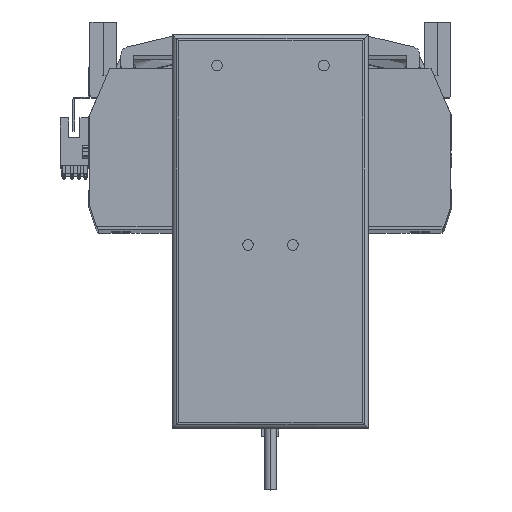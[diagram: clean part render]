
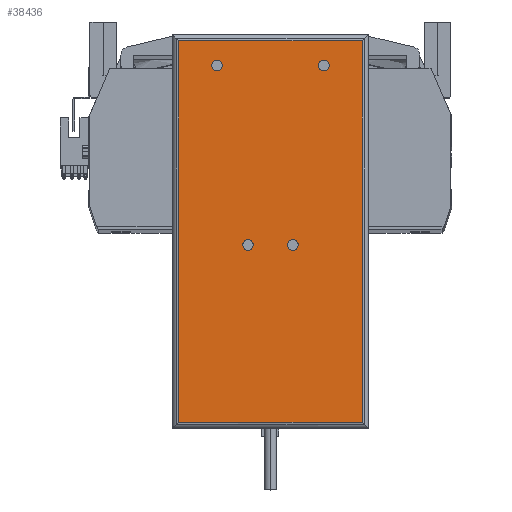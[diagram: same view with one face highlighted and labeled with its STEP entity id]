
A CAD part, top view. The second image highlights one B-rep face of the part: STEP entity #38436.
In plain terms, the highlighted planar face has unit normal (0, 0, 1) as drawn and (0, 0, -1) by its records, which use the part's own axes.
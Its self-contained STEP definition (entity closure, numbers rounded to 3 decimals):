
#146 = ORIENTED_EDGE ( 'NONE', *, *, #25729, .F. ) ;
#319 = AXIS2_PLACEMENT_3D ( 'NONE', #40799, #44683, #6177 ) ;
#764 = DIRECTION ( 'NONE',  ( 0., 0., -1. ) ) ;
#915 = FACE_BOUND ( 'NONE', #24496, .T. ) ;
#1121 = EDGE_LOOP ( 'NONE', ( #32854, #146 ) ) ;
#1630 = ORIENTED_EDGE ( 'NONE', *, *, #18921, .T. ) ;
#2203 = FACE_OUTER_BOUND ( 'NONE', #5979, .T. ) ;
#2875 = EDGE_CURVE ( 'NONE', #31902, #31493, #29113, .T. ) ;
#3728 = VERTEX_POINT ( 'NONE', #23587 ) ;
#3736 = ORIENTED_EDGE ( 'NONE', *, *, #36330, .F. ) ;
#5730 = ORIENTED_EDGE ( 'NONE', *, *, #6995, .T. ) ;
#5780 = CARTESIAN_POINT ( 'NONE',  ( -43., 89.25, 0. ) ) ;
#5791 = DIRECTION ( 'NONE',  ( 0., 0., 1. ) ) ;
#5979 = EDGE_LOOP ( 'NONE', ( #5730, #23596, #21011, #1630 ) ) ;
#6177 = DIRECTION ( 'NONE',  ( -1., 0., 0. ) ) ;
#6319 = EDGE_LOOP ( 'NONE', ( #11377, #39365 ) ) ;
#6753 = CARTESIAN_POINT ( 'NONE',  ( 43., -89.25, 0. ) ) ;
#6995 = EDGE_CURVE ( 'NONE', #22859, #37853, #32327, .T. ) ;
#6998 = CARTESIAN_POINT ( 'NONE',  ( -8., -6.25, 0. ) ) ;
#7252 = CARTESIAN_POINT ( 'NONE',  ( 43., 89.25, 0. ) ) ;
#7517 = AXIS2_PLACEMENT_3D ( 'NONE', #21199, #40350, #44251 ) ;
#9180 = CARTESIAN_POINT ( 'NONE',  ( -10.5, -6.25, 0. ) ) ;
#9668 = DIRECTION ( 'NONE',  ( 1., 0., 0. ) ) ;
#10700 = CARTESIAN_POINT ( 'NONE',  ( -46., 89.25, 0. ) ) ;
#10717 = ORIENTED_EDGE ( 'NONE', *, *, #47094, .F. ) ;
#10907 = AXIS2_PLACEMENT_3D ( 'NONE', #12370, #764, #27646 ) ;
#11297 = CARTESIAN_POINT ( 'NONE',  ( 43., -92.25, 0. ) ) ;
#11377 = ORIENTED_EDGE ( 'NONE', *, *, #16544, .F. ) ;
#11598 = DIRECTION ( 'NONE',  ( 0., 0., -1. ) ) ;
#11669 = VERTEX_POINT ( 'NONE', #6998 ) ;
#11753 = CARTESIAN_POINT ( 'NONE',  ( -10.5, -6.25, 0. ) ) ;
#12232 = CARTESIAN_POINT ( 'NONE',  ( -46., -89.25, 0. ) ) ;
#12370 = CARTESIAN_POINT ( 'NONE',  ( 25., 77.75, 0. ) ) ;
#12480 = EDGE_CURVE ( 'NONE', #32947, #3728, #22637, .T. ) ;
#12509 = EDGE_CURVE ( 'NONE', #37853, #31902, #46142, .T. ) ;
#12734 = CIRCLE ( 'NONE', #14839, 2.5 ) ;
#13149 = ORIENTED_EDGE ( 'NONE', *, *, #12480, .F. ) ;
#13434 = VERTEX_POINT ( 'NONE', #19535 ) ;
#14471 = EDGE_CURVE ( 'NONE', #43941, #11669, #26610, .T. ) ;
#14839 = AXIS2_PLACEMENT_3D ( 'NONE', #9180, #28804, #17075 ) ;
#16266 = DIRECTION ( 'NONE',  ( -1., 0., 0. ) ) ;
#16361 = VERTEX_POINT ( 'NONE', #25519 ) ;
#16544 = EDGE_CURVE ( 'NONE', #37794, #13434, #28268, .T. ) ;
#17075 = DIRECTION ( 'NONE',  ( -1., 0., 0. ) ) ;
#17387 = AXIS2_PLACEMENT_3D ( 'NONE', #34592, #11598, #39126 ) ;
#17736 = CARTESIAN_POINT ( 'NONE',  ( -27.5, 77.75, 0. ) ) ;
#18921 = EDGE_CURVE ( 'NONE', #31493, #22859, #27079, .T. ) ;
#19535 = CARTESIAN_POINT ( 'NONE',  ( 27.5, 77.75, 0. ) ) ;
#19829 = DIRECTION ( 'NONE',  ( -1., 0., 0. ) ) ;
#20386 = DIRECTION ( 'NONE',  ( -1., 0., 0. ) ) ;
#20801 = EDGE_LOOP ( 'NONE', ( #3736, #10717 ) ) ;
#21011 = ORIENTED_EDGE ( 'NONE', *, *, #2875, .T. ) ;
#21199 = CARTESIAN_POINT ( 'NONE',  ( 10.5, -6.25, 0. ) ) ;
#22637 = CIRCLE ( 'NONE', #32263, 2.5 ) ;
#22776 = VECTOR ( 'NONE', #41905, 1000. ) ;
#22859 = VERTEX_POINT ( 'NONE', #7252 ) ;
#23084 = ORIENTED_EDGE ( 'NONE', *, *, #46450, .F. ) ;
#23353 = DIRECTION ( 'NONE',  ( 0., 0., -1. ) ) ;
#23587 = CARTESIAN_POINT ( 'NONE',  ( -22.5, 77.75, 0. ) ) ;
#23596 = ORIENTED_EDGE ( 'NONE', *, *, #12509, .T. ) ;
#24496 = EDGE_LOOP ( 'NONE', ( #13149, #23084 ) ) ;
#25210 = VERTEX_POINT ( 'NONE', #42885 ) ;
#25519 = CARTESIAN_POINT ( 'NONE',  ( 13., -6.25, 0. ) ) ;
#25671 = VECTOR ( 'NONE', #31190, 1000. ) ;
#25729 = EDGE_CURVE ( 'NONE', #11669, #43941, #12734, .T. ) ;
#26132 = DIRECTION ( 'NONE',  ( 1., 0., 0. ) ) ;
#26405 = CIRCLE ( 'NONE', #319, 2.5 ) ;
#26610 = CIRCLE ( 'NONE', #40112, 2.5 ) ;
#27079 = LINE ( 'NONE', #10700, #34902 ) ;
#27646 = DIRECTION ( 'NONE',  ( -1., 0., 0. ) ) ;
#27750 = DIRECTION ( 'NONE',  ( 0., 0., -1. ) ) ;
#28268 = CIRCLE ( 'NONE', #10907, 2.5 ) ;
#28804 = DIRECTION ( 'NONE',  ( 0., 0., -1. ) ) ;
#29113 = LINE ( 'NONE', #42009, #48396 ) ;
#29283 = PLANE ( 'NONE',  #35674 ) ;
#29947 = AXIS2_PLACEMENT_3D ( 'NONE', #39500, #27750, #20386 ) ;
#31190 = DIRECTION ( 'NONE',  ( -1., 0., 0. ) ) ;
#31493 = VERTEX_POINT ( 'NONE', #5780 ) ;
#31902 = VERTEX_POINT ( 'NONE', #39821 ) ;
#32263 = AXIS2_PLACEMENT_3D ( 'NONE', #39261, #47030, #16266 ) ;
#32327 = LINE ( 'NONE', #11297, #22776 ) ;
#32371 = CARTESIAN_POINT ( 'NONE',  ( -13., -6.25, 0. ) ) ;
#32854 = ORIENTED_EDGE ( 'NONE', *, *, #14471, .F. ) ;
#32947 = VERTEX_POINT ( 'NONE', #17736 ) ;
#34592 = CARTESIAN_POINT ( 'NONE',  ( 10.5, -6.25, 0. ) ) ;
#34902 = VECTOR ( 'NONE', #26132, 1000. ) ;
#35511 = EDGE_CURVE ( 'NONE', #13434, #37794, #26405, .T. ) ;
#35674 = AXIS2_PLACEMENT_3D ( 'NONE', #48811, #5791, #9668 ) ;
#36330 = EDGE_CURVE ( 'NONE', #25210, #16361, #46227, .T. ) ;
#37595 = FACE_BOUND ( 'NONE', #20801, .T. ) ;
#37794 = VERTEX_POINT ( 'NONE', #48599 ) ;
#37853 = VERTEX_POINT ( 'NONE', #6753 ) ;
#38436 = ADVANCED_FACE ( 'NONE', ( #2203, #45493, #37595, #915, #48441 ), #29283, .F. ) ;
#39126 = DIRECTION ( 'NONE',  ( -1., 0., 0. ) ) ;
#39261 = CARTESIAN_POINT ( 'NONE',  ( -25., 77.75, 0. ) ) ;
#39365 = ORIENTED_EDGE ( 'NONE', *, *, #35511, .F. ) ;
#39500 = CARTESIAN_POINT ( 'NONE',  ( -25., 77.75, 0. ) ) ;
#39821 = CARTESIAN_POINT ( 'NONE',  ( -43., -89.25, 0. ) ) ;
#40112 = AXIS2_PLACEMENT_3D ( 'NONE', #11753, #23353, #19829 ) ;
#40350 = DIRECTION ( 'NONE',  ( 0., 0., -1. ) ) ;
#40799 = CARTESIAN_POINT ( 'NONE',  ( 25., 77.75, 0. ) ) ;
#41905 = DIRECTION ( 'NONE',  ( 0., -1., 0. ) ) ;
#42009 = CARTESIAN_POINT ( 'NONE',  ( -43., -92.25, 0. ) ) ;
#42885 = CARTESIAN_POINT ( 'NONE',  ( 8., -6.25, 0. ) ) ;
#43941 = VERTEX_POINT ( 'NONE', #32371 ) ;
#44251 = DIRECTION ( 'NONE',  ( -1., 0., 0. ) ) ;
#44683 = DIRECTION ( 'NONE',  ( 0., 0., -1. ) ) ;
#45493 = FACE_BOUND ( 'NONE', #1121, .T. ) ;
#45668 = CIRCLE ( 'NONE', #29947, 2.5 ) ;
#46142 = LINE ( 'NONE', #12232, #25671 ) ;
#46227 = CIRCLE ( 'NONE', #7517, 2.5 ) ;
#46450 = EDGE_CURVE ( 'NONE', #3728, #32947, #45668, .T. ) ;
#47030 = DIRECTION ( 'NONE',  ( 0., 0., -1. ) ) ;
#47094 = EDGE_CURVE ( 'NONE', #16361, #25210, #48670, .T. ) ;
#48396 = VECTOR ( 'NONE', #49696, 1000. ) ;
#48441 = FACE_BOUND ( 'NONE', #6319, .T. ) ;
#48599 = CARTESIAN_POINT ( 'NONE',  ( 22.5, 77.75, 0. ) ) ;
#48670 = CIRCLE ( 'NONE', #17387, 2.5 ) ;
#48811 = CARTESIAN_POINT ( 'NONE',  ( -46., -92.25, 0. ) ) ;
#49696 = DIRECTION ( 'NONE',  ( 0., 1., 0. ) ) ;
